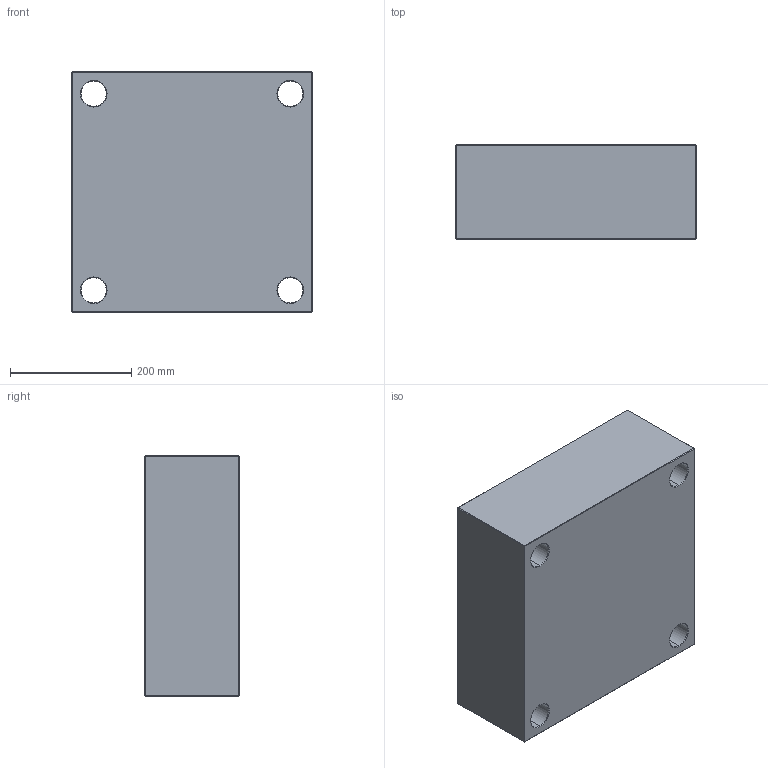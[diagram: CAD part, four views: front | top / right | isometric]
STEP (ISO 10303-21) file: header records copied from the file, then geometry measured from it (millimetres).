
FILE_DESCRIPTION (( 'STEP AP214' ), '1' );
FILE_NAME ('PC-396x396x156.STEP', '2020-04-21T17:16:49', ( 'August' ), ( '' ), 'SwSTEP 2.0', 'SolidWorks 2018', '' );
FILE_SCHEMA (( 'AUTOMOTIVE_DESIGN' ));
Length unit declared in the file: millimetre
Products named in the file (1): PC-396x396x156
Bounding box: 396 x 156 x 396 mm (x, y, z)
Volume: 23565416.8 mm3; surface area: 634499.9 mm2
Topology: 1 solids, 1 shells, 82 faces, 168 edges, 96 vertices
Faces by surface type: plane 34, cone 24, cylinder 24
Entity records: 2170 total; most frequent: DIRECTION 406, CARTESIAN_POINT 347, ORIENTED_EDGE 336, EDGE_CURVE 168, AXIS2_PLACEMENT_3D 155, EDGE_LOOP 98, LINE 96, VERTEX_POINT 96
